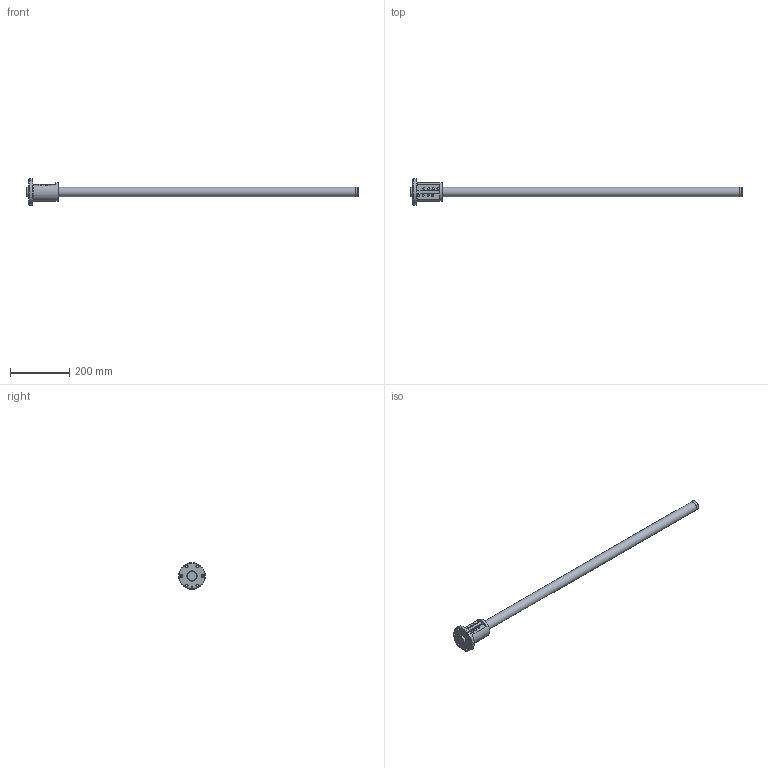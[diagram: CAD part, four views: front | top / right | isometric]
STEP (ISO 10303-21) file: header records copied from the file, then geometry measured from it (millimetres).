
FILE_DESCRIPTION( ( 'STEP AP203' ), ' ' );
FILE_NAME( 'p:/temp/worker_16/3916_4020/app_78_12018011812045852043987818fa3fd_000000_00_00_000000/format_0/BIF3206-10RRG0+1119LC0_10000.stp', '2018-01-18T11:04:59', ( '' ), ( '' ), ' ', 'PARTsolutions', ' ' );
FILE_SCHEMA( ( 'CONFIG_CONTROL_DESIGN' ) );
Length unit declared in the file: millimetre
Products named in the file (3): BIF3206-10RRG0+1119LC0_10000; _BIF 3206-10RR1000500 Shaft; _BIF 3206-10RR Nut
Assembly tree (2 placements, depth 2):
  BIF3206-10RRG0+1119LC0_10000
    _BIF 3206-10RR1000500 Shaft
    _BIF 3206-10RR Nut
Bounding box: 1119 x 89 x 89 mm (x, y, z)
Volume: 1129296.1 mm3; surface area: 159387.8 mm2
Topology: 2 solids, 2 shells, 98 faces, 218 edges, 144 vertices
Faces by surface type: cylinder 47, plane 35, cone 8, torus 8
Full cylindrical faces by diameter (mm): 4.25 x2, 4.917 x1, 5.8 x8, 6.6 x6, 11 x6, 31.5 x2, 32 x4, 34.8 x2, 62 x1, 89 x1
Entity records: 3216 total; most frequent: CARTESIAN_POINT 1023, DIRECTION 456, ORIENTED_EDGE 326, AXIS2_PLACEMENT_3D 208, EDGE_LOOP 191, EDGE_CURVE 163, VERTEX_POINT 137, FACE_OUTER_BOUND 131
